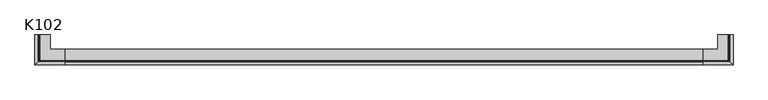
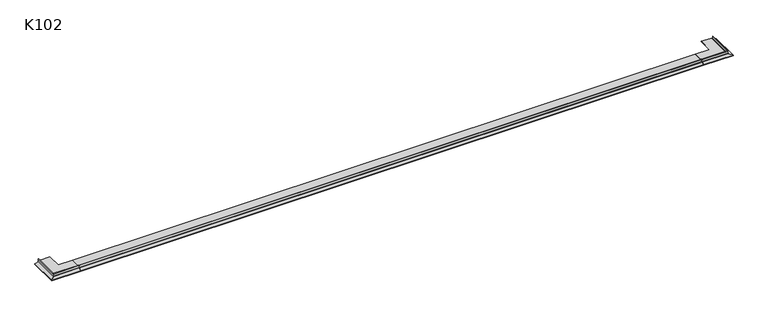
"""IFC4 building model written with IfcOpenShell, lengths in millimetres: proxy geometry, K102 Profil okapowy prosty : K102."""

from ifc_helpers import new_model, si_unit, point, frame, frame_2d, origin, place, context, project, spatial, polyline, circle_curve, ellipse_curve, trimmed, segment, composite_curve, outline, extrude, source, transform, mapped, element, save
from ifc_brep_helpers import plane_surface, cylinder_surface, revolved_surface, advanced_brep


def k102_213efe2d(model_context):
    return source(origin(), model_context, "Body", "SolidModel", [
        advanced_brep(
        [(4830.0, -24.4184871, -8.1422568), (4830.0, -22.7394353, -5.7532078), (4830.0, -22.7394353, 10.321213), (4830.0, -20.5465224, 12.7339418), (4830.0, -20.5465224, 11.3930959), (4830.0, -21.4121459, 10.321213), (4830.0, -21.4121459, -7.2712376), (4830.0, -14.5258906, -7.2712376), (4830.0, -6.3502965, -5.9503608), (4830.0, -6.3502965, -1.3849976), (4830.0, -12.7424491, -1.3849976), (4830.0, -14.2410772, -3.6068052), (4830.0, -15.3829039, -2.8366335), (4830.0, -13.4695704, 0.0), (4830.0, 64.4, 0.0), (4830.0, 64.4, -1.5004141), (4830.0, -4.8498824, -1.5004141), (4830.0, -4.8498824, -7.2270409), (4830.0, -12.351953, -8.4421112), (4830.0, -12.351953, -10.4725578), (4830.0, -13.3907012, -11.3441711), (4830.0, -13.3907012, -8.7716518), (4830.0, -22.2483616, -8.7716518), (4830.0, -46.9768941, -17.6744713), (4830.0, -46.9768941, -19.2442096), (4830.0, -48.0156424, -20.1158228), (4830.0, -48.0156424, -16.6377555), (5024.4184871, 170.0, -8.1422568), (5048.0156424, 170.0, -16.6377555), (5048.0156424, 170.0, -20.1158228), (5046.9768941, 170.0, -19.2442096), (5046.9768941, 170.0, -17.6744713), (5022.2483616, 170.0, -8.7716518), (5013.3907012, 170.0, -8.7716518), (5013.3907012, 170.0, -11.3441711), (5012.351953, 170.0, -10.4725578), (5012.351953, 170.0, -8.4421112), (5004.8498824, 170.0, -7.2270409), (5004.8498824, 170.0, -1.5004141), (4935.6, 170.0, -1.5004141), (4935.6, 170.0, 0.0), (5013.4695704, 170.0, 0.0), (5015.3829039, 170.0, -2.8366335), (5014.2410772, 170.0, -3.6068052), (5012.7424491, 170.0, -1.3849976), (5006.3502965, 170.0, -1.3849976), (5006.3502965, 170.0, -5.9503608), (5014.5258906, 170.0, -7.2712376), (5021.4121459, 170.0, -7.2712376), (5021.4121459, 170.0, 10.321213), (5020.5465224, 170.0, 11.3930959), (5020.5465224, 170.0, 12.7339418), (5022.7394353, 170.0, 10.321213), (5022.7394353, 170.0, -5.7532078), (5048.0156424, -48.0156424, -16.6377555), (5024.4184871, -24.4184871, -8.1422568), (5048.0156424, -48.0156424, -20.1158228), (5046.9768941, -46.9768941, -19.2442096), (5046.9768941, -46.9768941, -17.6744713), (5022.2483616, -22.2483616, -8.7716518), (5013.3907012, -13.3907012, -8.7716518), (5013.3907012, -13.3907012, -11.3441711), (5012.351953, -12.351953, -10.4725578), (5012.351953, -12.351953, -8.4421112), (5004.8498824, -4.8498824, -7.2270409), (5004.8498824, -4.8498824, -1.5004141), (4935.6, 64.4, -1.5004141), (4935.6, 64.4, 0.0), (5013.4695704, -13.4695704, 0.0), (5015.3829039, -15.3829039, -2.8366335), (5014.2410772, -14.2410772, -3.6068052), (5012.7424491, -12.7424491, -1.3849976), (5006.3502965, -6.3502965, -1.3849976), (5006.3502965, -6.3502965, -5.9503608), (5014.5258906, -14.5258906, -7.2712376), (5021.4121459, -21.4121459, -7.2712376), (5021.4121459, -21.4121459, 10.321213), (5020.5465224, -20.5465224, 11.3930959), (5020.5465224, -20.5465224, 12.7339418), (5022.7394353, -22.7394353, 10.321213), (5022.7394353, -22.7394353, -5.7532078)],
        [
            (0, 1, circle_curve(frame((4830.0, -25.2785977, -5.7532078), z_axis=(1.0, 0.0, 0.0), x_axis=(0.0, -1.0, 0.0)), 2.5391624)),
            (1, 2),
            (2, 3, circle_curve(frame((4830.0, -20.3156894, 10.321213), z_axis=(-1.0, 0.0, 0.0), x_axis=(0.0, -1.0, 0.0)), 2.4237459)),
            (3, 4),
            (4, 5, circle_curve(frame((4830.0, -20.3156894, 10.321213), z_axis=(1.0, 0.0, 0.0), x_axis=(0.0, -1.0, 0.0)), 1.0964565)),
            (5, 6),
            (6, 7),
            (7, 8),
            (8, 9),
            (9, 10),
            (10, 11),
            (11, 12),
            (12, 13),
            (13, 14),
            (14, 15),
            (15, 16),
            (16, 17),
            (17, 18),
            (18, 19),
            (19, 20),
            (20, 21),
            (21, 22),
            (22, 23),
            (23, 24),
            (24, 25),
            (25, 26),
            (26, 0),
            (27, 28),
            (28, 29),
            (29, 30),
            (30, 31),
            (31, 32),
            (32, 33),
            (33, 34),
            (34, 35),
            (35, 36),
            (36, 37),
            (37, 38),
            (38, 39),
            (39, 40),
            (40, 41),
            (41, 42),
            (42, 43),
            (43, 44),
            (44, 45),
            (45, 46),
            (46, 47),
            (47, 48),
            (48, 49),
            (49, 50, circle_curve(frame((5020.3156894, 170.0, 10.321213), z_axis=(0.0, -1.0, 0.0), x_axis=(1.0, 0.0, 0.0)), 1.0964565)),
            (50, 51),
            (51, 52, circle_curve(frame((5020.3156894, 170.0, 10.321213), z_axis=(0.0, 1.0, 0.0), x_axis=(1.0, 0.0, 0.0)), 2.4237459)),
            (52, 53),
            (53, 27, circle_curve(frame((5025.2785977, 170.0, -5.7532078), z_axis=(0.0, -1.0, 0.0), x_axis=(1.0, 0.0, 0.0)), 2.5391624)),
            (26, 54),
            (54, 55),
            (55, 0),
            (25, 56),
            (56, 54),
            (24, 57),
            (57, 56),
            (23, 58),
            (58, 57),
            (22, 59),
            (59, 58),
            (21, 60),
            (60, 33),
            (32, 59),
            (20, 61),
            (61, 60),
            (19, 62),
            (62, 61),
            (18, 63),
            (63, 62),
            (17, 64),
            (64, 63),
            (16, 65),
            (65, 64),
            (15, 66),
            (66, 39),
            (38, 65),
            (14, 67),
            (67, 66),
            (13, 68),
            (68, 41),
            (40, 67),
            (12, 69),
            (69, 68),
            (11, 70),
            (70, 69),
            (10, 71),
            (71, 70),
            (9, 72),
            (72, 45),
            (44, 71),
            (8, 73),
            (73, 72),
            (7, 74),
            (74, 73),
            (6, 75),
            (75, 48),
            (47, 74),
            (5, 76),
            (76, 75),
            (4, 77),
            (77, 76, ellipse_curve(frame((5020.3156894, -20.3156894, 10.321213), z_axis=(0.7071067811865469, 0.707106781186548, 0.0), x_axis=(0.7071067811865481, -0.7071067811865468, 0.0)), 1.5506236, 1.0964565)),
            (3, 78),
            (78, 77),
            (2, 79),
            (79, 78, ellipse_curve(frame((5020.3156894, -20.3156894, 10.321213), z_axis=(-0.7071067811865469, -0.707106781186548, 0.0), x_axis=(-0.7071067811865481, 0.7071067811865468, 0.0)), 3.4276943, 2.4237459)),
            (1, 80),
            (80, 79),
            (55, 80, ellipse_curve(frame((5025.2785977, -25.2785977, -5.7532078), z_axis=(0.7071067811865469, 0.707106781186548, 0.0), x_axis=(0.7071067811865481, -0.7071067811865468, 0.0)), 3.5909178, 2.5391624)),
            (54, 28),
            (27, 55),
            (56, 29),
            (57, 30),
            (58, 31),
            (61, 34),
            (62, 35),
            (63, 36),
            (64, 37),
            (69, 42),
            (70, 43),
            (73, 46),
            (76, 49),
            (77, 50),
            (78, 51),
            (79, 52),
            (80, 53),
        ],
        [
            plane_surface(frame((4830.0, 0.0, 0.0), z_axis=(-1.0, 0.0, 0.0), x_axis=(0.0, 0.0, 1.0))),
            plane_surface(frame((5000.0, 170.0, 0.0), z_axis=(0.0, 1.0, 0.0), x_axis=(0.0, 0.0, 1.0))),
            plane_surface(frame((4830.0, -24.4184871, -8.1422568), z_axis=(0.0, -0.33873792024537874, 0.940880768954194), x_axis=(1.0, 0.0, 0.0))),
            plane_surface(frame((4830.0, -48.0156424, -16.6377555), z_axis=(0.0, -1.0, 0.0), x_axis=(1.0, 0.0, 0.0))),
            plane_surface(frame((4830.0, -48.0156424, -20.1158228), z_axis=(0.0, 0.6427876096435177, -0.7660444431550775), x_axis=(1.0, 0.0, 0.0))),
            plane_surface(frame((4830.0, -46.9768941, -19.2442096), z_axis=(0.0, 1.0, 0.0), x_axis=(1.0, 0.0, 0.0))),
            plane_surface(frame((4830.0, -46.9768941, -17.6744713), z_axis=(0.0, 0.3387379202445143, -0.9408807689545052), x_axis=(1.0, 0.0, 0.0))),
            plane_surface(frame((4830.0, -22.2483616, -8.7716518), z_axis=(0.0, 0.0, -1.0), x_axis=(1.0, 0.0, 0.0))),
            plane_surface(frame((4830.0, -13.3907012, -8.7716518), z_axis=(0.0, -1.0, 0.0), x_axis=(1.0, 0.0, 0.0))),
            plane_surface(frame((4830.0, -13.3907012, -11.3441711), z_axis=(0.0, 0.6427876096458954, -0.7660444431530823), x_axis=(1.0, 0.0, 0.0))),
            plane_surface(frame((4830.0, -12.351953, -10.4725578), z_axis=(0.0, 1.0, 0.0), x_axis=(1.0, 0.0, 0.0))),
            plane_surface(frame((4830.0, -12.351953, -8.4421112), z_axis=(0.0, 0.15988118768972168, -0.9871362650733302), x_axis=(1.0, 0.0, 0.0))),
            plane_surface(frame((4830.0, -4.8498824, -7.2270409), z_axis=(0.0, 1.0, 0.0), x_axis=(1.0, 0.0, 0.0))),
            plane_surface(frame((4830.0, -4.8498824, -1.5004141), z_axis=(0.0, 0.0, -1.0), x_axis=(1.0, 0.0, 0.0))),
            plane_surface(frame((4830.0, 64.4, -1.5004141), z_axis=(0.0, 1.0, 0.0), x_axis=(1.0, 0.0, 0.0))),
            plane_surface(frame((4830.0, 64.4, 0.0), z_axis=(0.0, 0.0, 1.0), x_axis=(1.0, 0.0, 0.0))),
            plane_surface(frame((4830.0, -13.4695704, 0.0), z_axis=(0.0, -0.8290375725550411, 0.5591929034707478), x_axis=(1.0, 0.0, 0.0))),
            plane_surface(frame((4830.0, -15.3829039, -2.8366335), z_axis=(0.0, -0.5591929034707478, -0.8290375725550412), x_axis=(1.0, 0.0, 0.0))),
            plane_surface(frame((4830.0, -14.2410772, -3.6068052), z_axis=(0.0, 0.8290375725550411, -0.5591929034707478), x_axis=(1.0, 0.0, 0.0))),
            plane_surface(frame((4830.0, -12.7424491, -1.3849976), z_axis=(0.0, 0.0, -1.0), x_axis=(1.0, 0.0, 0.0))),
            plane_surface(frame((4830.0, -6.3502965, -1.3849976), z_axis=(0.0, -1.0, 0.0), x_axis=(1.0, 0.0, 0.0))),
            plane_surface(frame((4830.0, -6.3502965, -5.9503608), z_axis=(0.0, -0.1594951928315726, 0.9871987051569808), x_axis=(1.0, 0.0, 0.0))),
            plane_surface(frame((4830.0, -14.5258906, -7.2712376), z_axis=(0.0, 0.0, 1.0), x_axis=(1.0, 0.0, 0.0))),
            plane_surface(frame((4830.0, -21.4121459, -7.2712376), z_axis=(0.0, 1.0, 0.0), x_axis=(1.0, 0.0, 0.0))),
            revolved_surface(polyline([(5021.4121459, -21.4121459, 10.321213), (4830.0, -21.4121459, 10.321213)]), (4830.0, -20.3156894, 10.321213), (1.0, 0.0, 0.0)),
            plane_surface(frame((4830.0, -20.5465224, 11.3930959), z_axis=(0.0, 1.0, 0.0), x_axis=(1.0, 0.0, 0.0))),
            cylinder_surface(frame((4830.0, -20.3156894, 10.321213), z_axis=(-1.0, 0.0, 0.0), x_axis=(0.0, -1.0, 0.0)), 2.4237459),
            plane_surface(frame((4830.0, -22.7394353, 10.321213), z_axis=(0.0, -1.0, 0.0), x_axis=(1.0, 0.0, 0.0))),
            revolved_surface(polyline([(5027.817760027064, -27.817760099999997, -5.7532078), (4830.0, -27.817760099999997, -5.7532078)]), (4830.0, -25.2785977, -5.7532078), (1.0, 0.0, 0.0)),
            plane_surface(frame((5024.4184871, -24.4184871, -8.1422568), z_axis=(0.33873792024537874, 0.0, 0.940880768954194), x_axis=(0.0, 1.0, 0.0))),
            plane_surface(frame((5048.0156424, -48.0156424, -16.6377555), z_axis=(1.0, 0.0, 0.0), x_axis=(0.0, 1.0, 0.0))),
            plane_surface(frame((5048.0156424, -48.0156424, -20.1158228), z_axis=(-0.6427876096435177, 0.0, -0.7660444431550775), x_axis=(0.0, 1.0, 0.0))),
            plane_surface(frame((5046.9768941, -46.9768941, -19.2442096), z_axis=(-1.0, 0.0, 0.0), x_axis=(0.0, 1.0, 0.0))),
            plane_surface(frame((5046.9768941, -46.9768941, -17.6744713), z_axis=(-0.3387379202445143, 0.0, -0.9408807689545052), x_axis=(0.0, 1.0, 0.0))),
            plane_surface(frame((5013.3907012, -13.3907012, -8.7716518), z_axis=(1.0, 0.0, 0.0), x_axis=(0.0, 1.0, 0.0))),
            plane_surface(frame((5013.3907012, -13.3907012, -11.3441711), z_axis=(-0.6427876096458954, 0.0, -0.7660444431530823), x_axis=(0.0, 1.0, 0.0))),
            plane_surface(frame((5012.351953, -12.351953, -10.4725578), z_axis=(-1.0, 0.0, 0.0), x_axis=(0.0, 1.0, 0.0))),
            plane_surface(frame((5012.351953, -12.351953, -8.4421112), z_axis=(-0.15988118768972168, 0.0, -0.9871362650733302), x_axis=(0.0, 1.0, 0.0))),
            plane_surface(frame((5004.8498824, -4.8498824, -7.2270409), z_axis=(-1.0, 0.0, 0.0), x_axis=(0.0, 1.0, 0.0))),
            plane_surface(frame((4935.6, 64.4, -1.5004141), z_axis=(-1.0, 0.0, 0.0), x_axis=(0.0, 1.0, 0.0))),
            plane_surface(frame((5013.4695704, -13.4695704, 0.0), z_axis=(0.8290375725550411, 0.0, 0.5591929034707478), x_axis=(0.0, 1.0, 0.0))),
            plane_surface(frame((5015.3829039, -15.3829039, -2.8366335), z_axis=(0.5591929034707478, 0.0, -0.8290375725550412), x_axis=(0.0, 1.0, 0.0))),
            plane_surface(frame((5014.2410772, -14.2410772, -3.6068052), z_axis=(-0.8290375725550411, 0.0, -0.5591929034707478), x_axis=(0.0, 1.0, 0.0))),
            plane_surface(frame((5006.3502965, -6.3502965, -1.3849976), z_axis=(1.0, 0.0, 0.0), x_axis=(0.0, 1.0, 0.0))),
            plane_surface(frame((5006.3502965, -6.3502965, -5.9503608), z_axis=(0.1594951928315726, 0.0, 0.9871987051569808), x_axis=(0.0, 1.0, 0.0))),
            plane_surface(frame((5021.4121459, -21.4121459, -7.2712376), z_axis=(-1.0, 0.0, 0.0), x_axis=(0.0, 1.0, 0.0))),
            revolved_surface(polyline([(5021.412145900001, 170.0, 10.321213), (5021.412145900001, -21.4121459, 10.321213)]), (5020.3156894, 0.0, 10.321213), (0.0, 1.0, 0.0)),
            plane_surface(frame((5020.5465224, -20.5465224, 11.3930959), z_axis=(-1.0, 0.0, 0.0), x_axis=(0.0, 1.0, 0.0))),
            cylinder_surface(frame((5020.3156894, 0.0, 10.321213), z_axis=(0.0, -1.0, 0.0), x_axis=(1.0, 0.0, 0.0)), 2.4237459),
            plane_surface(frame((5022.7394353, -22.7394353, 10.321213), z_axis=(1.0, 0.0, 0.0), x_axis=(0.0, 1.0, 0.0))),
            revolved_surface(polyline([(5027.817760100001, 170.0, -5.7532078), (5027.817760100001, -27.817760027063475, -5.7532078)]), (5025.2785977, 0.0, -5.7532078), (0.0, 1.0, 0.0)),
        ],
        [
            (0, [[1, 2, 3, 4, 5, 6, 7, 8, 9, 10, 11, 12, 13, 14, 15, 16, 17, 18, 19, 20, 21, 22, 23, 24, 25, 26, 27]]),
            (1, [[28, 29, 30, 31, 32, 33, 34, 35, 36, 37, 38, 39, 40, 41, 42, 43, 44, 45, 46, 47, 48, 49, 50, 51, 52, 53, 54]]),
            (2, [[55, 56, 57, -27]]),
            (3, [[58, 59, -55, -26]]),
            (4, [[60, 61, -58, -25]]),
            (5, [[62, 63, -60, -24]]),
            (6, [[64, 65, -62, -23]]),
            (7, [[66, 67, -33, 68, -64, -22]]),
            (8, [[69, 70, -66, -21]]),
            (9, [[71, 72, -69, -20]]),
            (10, [[73, 74, -71, -19]]),
            (11, [[75, 76, -73, -18]]),
            (12, [[77, 78, -75, -17]]),
            (13, [[79, 80, -39, 81, -77, -16]]),
            (14, [[82, 83, -79, -15]]),
            (15, [[84, 85, -41, 86, -82, -14]]),
            (16, [[87, 88, -84, -13]]),
            (17, [[89, 90, -87, -12]]),
            (18, [[91, 92, -89, -11]]),
            (19, [[93, 94, -45, 95, -91, -10]]),
            (20, [[96, 97, -93, -9]]),
            (21, [[98, 99, -96, -8]]),
            (22, [[100, 101, -48, 102, -98, -7]]),
            (23, [[103, 104, -100, -6]]),
            (24, [[105, 106, -103, -5]]),
            (25, [[107, 108, -105, -4]]),
            (26, [[109, 110, -107, -3]]),
            (27, [[111, 112, -109, -2]]),
            (28, [[-57, 113, -111, -1]]),
            (29, [[114, -28, 115, -56]]),
            (30, [[116, -29, -114, -59]]),
            (31, [[117, -30, -116, -61]]),
            (32, [[118, -31, -117, -63]]),
            (33, [[-68, -32, -118, -65]]),
            (34, [[119, -34, -67, -70]]),
            (35, [[120, -35, -119, -72]]),
            (36, [[121, -36, -120, -74]]),
            (37, [[122, -37, -121, -76]]),
            (38, [[-81, -38, -122, -78]]),
            (39, [[-86, -40, -80, -83]]),
            (40, [[123, -42, -85, -88]]),
            (41, [[124, -43, -123, -90]]),
            (42, [[-95, -44, -124, -92]]),
            (43, [[125, -46, -94, -97]]),
            (44, [[-102, -47, -125, -99]]),
            (45, [[126, -49, -101, -104]]),
            (46, [[127, -50, -126, -106]]),
            (47, [[128, -51, -127, -108]]),
            (48, [[129, -52, -128, -110]]),
            (49, [[130, -53, -129, -112]]),
            (50, [[-115, -54, -130, -113]]),
        ],
    ),
        advanced_brep(
        [(170.0, -24.4184871, -8.1422568), (170.0, -48.0156424, -16.6377555), (170.0, -48.0156424, -20.1158228), (170.0, -46.9768941, -19.2442096), (170.0, -46.9768941, -17.6744713), (170.0, -22.2483616, -8.7716518), (170.0, -13.3907012, -8.7716518), (170.0, -13.3907012, -11.3441711), (170.0, -12.351953, -10.4725578), (170.0, -12.351953, -8.4421112), (170.0, -4.8498824, -7.2270409), (170.0, -4.8498824, -1.5004141), (170.0, 64.4, -1.5004141), (170.0, 64.4, 0.0), (170.0, -13.4695704, 0.0), (170.0, -15.3829039, -2.8366335), (170.0, -14.2410772, -3.6068052), (170.0, -12.7424491, -1.3849976), (170.0, -6.3502965, -1.3849976), (170.0, -6.3502965, -5.9503608), (170.0, -14.5258906, -7.2712376), (170.0, -21.4121459, -7.2712376), (170.0, -21.4121459, 10.321213), (170.0, -20.5465224, 11.3930959), (170.0, -20.5465224, 12.7339418), (170.0, -22.7394353, 10.321213), (170.0, -22.7394353, -5.7532078), (-24.4184871, 170.0, -8.1422568), (-22.7394353, 170.0, -5.7532078), (-22.7394353, 170.0, 10.321213), (-20.5465224, 170.0, 12.7339418), (-20.5465224, 170.0, 11.3930959), (-21.4121459, 170.0, 10.321213), (-21.4121459, 170.0, -7.2712376), (-14.5258906, 170.0, -7.2712376), (-6.3502965, 170.0, -5.9503608), (-6.3502965, 170.0, -1.3849976), (-12.7424491, 170.0, -1.3849976), (-14.2410772, 170.0, -3.6068052), (-15.3829039, 170.0, -2.8366335), (-13.4695704, 170.0, 0.0), (64.4, 170.0, 0.0), (64.4, 170.0, -1.5004141), (-4.8498824, 170.0, -1.5004141), (-4.8498824, 170.0, -7.2270409), (-12.351953, 170.0, -8.4421112), (-12.351953, 170.0, -10.4725578), (-13.3907012, 170.0, -11.3441711), (-13.3907012, 170.0, -8.7716518), (-22.2483616, 170.0, -8.7716518), (-46.9768941, 170.0, -17.6744713), (-46.9768941, 170.0, -19.2442096), (-48.0156424, 170.0, -20.1158228), (-48.0156424, 170.0, -16.6377555), (-24.4184871, -24.4184871, -8.1422568), (-48.0156424, -48.0156424, -16.6377555), (-48.0156424, -48.0156424, -20.1158228), (-46.9768941, -46.9768941, -19.2442096), (-46.9768941, -46.9768941, -17.6744713), (-22.2483616, -22.2483616, -8.7716518), (-13.3907012, -13.3907012, -8.7716518), (-13.3907012, -13.3907012, -11.3441711), (-12.351953, -12.351953, -10.4725578), (-12.351953, -12.351953, -8.4421112), (-4.8498824, -4.8498824, -7.2270409), (-4.8498824, -4.8498824, -1.5004141), (64.4, 64.4, -1.5004141), (64.4, 64.4, 0.0), (-13.4695704, -13.4695704, 0.0), (-15.3829039, -15.3829039, -2.8366335), (-14.2410772, -14.2410772, -3.6068052), (-12.7424491, -12.7424491, -1.3849976), (-6.3502965, -6.3502965, -1.3849976), (-6.3502965, -6.3502965, -5.9503608), (-14.5258906, -14.5258906, -7.2712376), (-21.4121459, -21.4121459, -7.2712376), (-21.4121459, -21.4121459, 10.321213), (-20.5465224, -20.5465224, 11.3930959), (-20.5465224, -20.5465224, 12.7339418), (-22.7394353, -22.7394353, 10.321213), (-22.7394353, -22.7394353, -5.7532078)],
        [
            (0, 1),
            (1, 2),
            (2, 3),
            (3, 4),
            (4, 5),
            (5, 6),
            (6, 7),
            (7, 8),
            (8, 9),
            (9, 10),
            (10, 11),
            (11, 12),
            (12, 13),
            (13, 14),
            (14, 15),
            (15, 16),
            (16, 17),
            (17, 18),
            (18, 19),
            (19, 20),
            (20, 21),
            (21, 22),
            (22, 23, circle_curve(frame((170.0, -20.3156894, 10.321213), z_axis=(-1.0, 0.0, 0.0), x_axis=(0.0, -1.0, 0.0)), 1.0964565)),
            (23, 24),
            (24, 25, circle_curve(frame((170.0, -20.3156894, 10.321213), z_axis=(1.0, 0.0, 0.0), x_axis=(0.0, -1.0, 0.0)), 2.4237459)),
            (25, 26),
            (26, 0, circle_curve(frame((170.0, -25.2785977, -5.7532078), z_axis=(-1.0, 0.0, 0.0), x_axis=(0.0, -1.0, 0.0)), 2.5391624)),
            (27, 28, circle_curve(frame((-25.2785977, 170.0, -5.7532078), z_axis=(0.0, -1.0, 0.0), x_axis=(-1.0, 0.0, 0.0)), 2.5391624)),
            (28, 29),
            (29, 30, circle_curve(frame((-20.3156894, 170.0, 10.321213), z_axis=(0.0, 1.0, 0.0), x_axis=(-1.0, 0.0, 0.0)), 2.4237459)),
            (30, 31),
            (31, 32, circle_curve(frame((-20.3156894, 170.0, 10.321213), z_axis=(0.0, -1.0, 0.0), x_axis=(-1.0, 0.0, 0.0)), 1.0964565)),
            (32, 33),
            (33, 34),
            (34, 35),
            (35, 36),
            (36, 37),
            (37, 38),
            (38, 39),
            (39, 40),
            (40, 41),
            (41, 42),
            (42, 43),
            (43, 44),
            (44, 45),
            (45, 46),
            (46, 47),
            (47, 48),
            (48, 49),
            (49, 50),
            (50, 51),
            (51, 52),
            (52, 53),
            (53, 27),
            (0, 54),
            (54, 55),
            (55, 1),
            (55, 56),
            (56, 2),
            (56, 57),
            (57, 3),
            (57, 58),
            (58, 4),
            (58, 59),
            (59, 5),
            (59, 49),
            (48, 60),
            (60, 6),
            (60, 61),
            (61, 7),
            (61, 62),
            (62, 8),
            (62, 63),
            (63, 9),
            (63, 64),
            (64, 10),
            (64, 65),
            (65, 11),
            (65, 43),
            (42, 66),
            (66, 12),
            (66, 67),
            (67, 13),
            (67, 41),
            (40, 68),
            (68, 14),
            (68, 69),
            (69, 15),
            (69, 70),
            (70, 16),
            (70, 71),
            (71, 17),
            (71, 37),
            (36, 72),
            (72, 18),
            (72, 73),
            (73, 19),
            (73, 74),
            (74, 20),
            (74, 34),
            (33, 75),
            (75, 21),
            (75, 76),
            (76, 22),
            (76, 77, ellipse_curve(frame((-20.3156894, -20.3156894, 10.321213), z_axis=(-0.7071067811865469, 0.707106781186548, 0.0), x_axis=(-0.7071067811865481, -0.7071067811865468, 0.0)), 1.5506236, 1.0964565)),
            (77, 23),
            (77, 78),
            (78, 24),
            (78, 79, ellipse_curve(frame((-20.3156894, -20.3156894, 10.321213), z_axis=(0.7071067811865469, -0.707106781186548, 0.0), x_axis=(0.7071067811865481, 0.7071067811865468, 0.0)), 3.4276943, 2.4237459)),
            (79, 25),
            (79, 80),
            (80, 26),
            (80, 54, ellipse_curve(frame((-25.2785977, -25.2785977, -5.7532078), z_axis=(-0.7071067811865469, 0.707106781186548, 0.0), x_axis=(-0.7071067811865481, -0.7071067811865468, 0.0)), 3.5909178, 2.5391624)),
            (54, 27),
            (53, 55),
            (52, 56),
            (51, 57),
            (50, 58),
            (47, 61),
            (46, 62),
            (45, 63),
            (44, 64),
            (39, 69),
            (38, 70),
            (35, 73),
            (32, 76),
            (31, 77),
            (30, 78),
            (29, 79),
            (28, 80),
        ],
        [
            plane_surface(frame((170.0, 0.0, 0.0), z_axis=(1.0, 0.0, 0.0), x_axis=(0.0, 0.0, 1.0))),
            plane_surface(frame((0.0, 170.0, 0.0), z_axis=(0.0, 1.0, 0.0), x_axis=(0.0, 0.0, 1.0))),
            plane_surface(frame((170.0, -24.4184871, -8.1422568), z_axis=(0.0, -0.33873792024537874, 0.940880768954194), x_axis=(-1.0, 0.0, 0.0))),
            plane_surface(frame((170.0, -48.0156424, -16.6377555), z_axis=(0.0, -1.0, 0.0), x_axis=(-1.0, 0.0, 0.0))),
            plane_surface(frame((170.0, -48.0156424, -20.1158228), z_axis=(0.0, 0.6427876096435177, -0.7660444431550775), x_axis=(-1.0, 0.0, 0.0))),
            plane_surface(frame((170.0, -46.9768941, -19.2442096), z_axis=(0.0, 1.0, 0.0), x_axis=(-1.0, 0.0, 0.0))),
            plane_surface(frame((170.0, -46.9768941, -17.6744713), z_axis=(0.0, 0.3387379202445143, -0.9408807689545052), x_axis=(-1.0, 0.0, 0.0))),
            plane_surface(frame((170.0, -22.2483616, -8.7716518), z_axis=(0.0, 0.0, -1.0), x_axis=(-1.0, 0.0, 0.0))),
            plane_surface(frame((170.0, -13.3907012, -8.7716518), z_axis=(0.0, -1.0, 0.0), x_axis=(-1.0, 0.0, 0.0))),
            plane_surface(frame((170.0, -13.3907012, -11.3441711), z_axis=(0.0, 0.6427876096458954, -0.7660444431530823), x_axis=(-1.0, 0.0, 0.0))),
            plane_surface(frame((170.0, -12.351953, -10.4725578), z_axis=(0.0, 1.0, 0.0), x_axis=(-1.0, 0.0, 0.0))),
            plane_surface(frame((170.0, -12.351953, -8.4421112), z_axis=(0.0, 0.15988118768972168, -0.9871362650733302), x_axis=(-1.0, 0.0, 0.0))),
            plane_surface(frame((170.0, -4.8498824, -7.2270409), z_axis=(0.0, 1.0, 0.0), x_axis=(-1.0, 0.0, 0.0))),
            plane_surface(frame((170.0, -4.8498824, -1.5004141), z_axis=(0.0, 0.0, -1.0), x_axis=(-1.0, 0.0, 0.0))),
            plane_surface(frame((170.0, 64.4, -1.5004141), z_axis=(0.0, 1.0, 0.0), x_axis=(-1.0, 0.0, 0.0))),
            plane_surface(frame((170.0, 64.4, 0.0), z_axis=(0.0, 0.0, 1.0), x_axis=(-1.0, 0.0, 0.0))),
            plane_surface(frame((170.0, -13.4695704, 0.0), z_axis=(0.0, -0.8290375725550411, 0.5591929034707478), x_axis=(-1.0, 0.0, 0.0))),
            plane_surface(frame((170.0, -15.3829039, -2.8366335), z_axis=(0.0, -0.5591929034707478, -0.8290375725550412), x_axis=(-1.0, 0.0, 0.0))),
            plane_surface(frame((170.0, -14.2410772, -3.6068052), z_axis=(0.0, 0.8290375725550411, -0.5591929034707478), x_axis=(-1.0, 0.0, 0.0))),
            plane_surface(frame((170.0, -12.7424491, -1.3849976), z_axis=(0.0, 0.0, -1.0), x_axis=(-1.0, 0.0, 0.0))),
            plane_surface(frame((170.0, -6.3502965, -1.3849976), z_axis=(0.0, -1.0, 0.0), x_axis=(-1.0, 0.0, 0.0))),
            plane_surface(frame((170.0, -6.3502965, -5.9503608), z_axis=(0.0, -0.1594951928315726, 0.9871987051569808), x_axis=(-1.0, 0.0, 0.0))),
            plane_surface(frame((170.0, -14.5258906, -7.2712376), z_axis=(0.0, 0.0, 1.0), x_axis=(-1.0, 0.0, 0.0))),
            plane_surface(frame((170.0, -21.4121459, -7.2712376), z_axis=(0.0, 1.0, 0.0), x_axis=(-1.0, 0.0, 0.0))),
            revolved_surface(polyline([(-21.412145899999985, -21.4121459, 10.321213), (170.0, -21.4121459, 10.321213)]), (170.0, -20.3156894, 10.321213), (-1.0, 0.0, 0.0)),
            plane_surface(frame((170.0, -20.5465224, 11.3930959), z_axis=(0.0, 1.0, 0.0), x_axis=(-1.0, 0.0, 0.0))),
            cylinder_surface(frame((170.0, -20.3156894, 10.321213), z_axis=(1.0, 0.0, 0.0), x_axis=(0.0, -1.0, 0.0)), 2.4237459),
            plane_surface(frame((170.0, -22.7394353, 10.321213), z_axis=(0.0, -1.0, 0.0), x_axis=(-1.0, 0.0, 0.0))),
            revolved_surface(polyline([(-27.817760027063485, -27.817760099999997, -5.7532078), (170.0, -27.817760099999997, -5.7532078)]), (170.0, -25.2785977, -5.7532078), (-1.0, 0.0, 0.0)),
            plane_surface(frame((-24.4184871, -24.4184871, -8.1422568), z_axis=(-0.33873792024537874, 0.0, 0.940880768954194), x_axis=(0.0, 1.0, 0.0))),
            plane_surface(frame((-48.0156424, -48.0156424, -16.6377555), z_axis=(-1.0, 0.0, 0.0), x_axis=(0.0, 1.0, 0.0))),
            plane_surface(frame((-48.0156424, -48.0156424, -20.1158228), z_axis=(0.6427876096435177, 0.0, -0.7660444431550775), x_axis=(0.0, 1.0, 0.0))),
            plane_surface(frame((-46.9768941, -46.9768941, -19.2442096), z_axis=(1.0, 0.0, 0.0), x_axis=(0.0, 1.0, 0.0))),
            plane_surface(frame((-46.9768941, -46.9768941, -17.6744713), z_axis=(0.3387379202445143, 0.0, -0.9408807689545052), x_axis=(0.0, 1.0, 0.0))),
            plane_surface(frame((-13.3907012, -13.3907012, -8.7716518), z_axis=(-1.0, 0.0, 0.0), x_axis=(0.0, 1.0, 0.0))),
            plane_surface(frame((-13.3907012, -13.3907012, -11.3441711), z_axis=(0.6427876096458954, 0.0, -0.7660444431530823), x_axis=(0.0, 1.0, 0.0))),
            plane_surface(frame((-12.351953, -12.351953, -10.4725578), z_axis=(1.0, 0.0, 0.0), x_axis=(0.0, 1.0, 0.0))),
            plane_surface(frame((-12.351953, -12.351953, -8.4421112), z_axis=(0.15988118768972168, 0.0, -0.9871362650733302), x_axis=(0.0, 1.0, 0.0))),
            plane_surface(frame((-4.8498824, -4.8498824, -7.2270409), z_axis=(1.0, 0.0, 0.0), x_axis=(0.0, 1.0, 0.0))),
            plane_surface(frame((64.4, 64.4, -1.5004141), z_axis=(1.0, 0.0, 0.0), x_axis=(0.0, 1.0, 0.0))),
            plane_surface(frame((-13.4695704, -13.4695704, 0.0), z_axis=(-0.8290375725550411, 0.0, 0.5591929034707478), x_axis=(0.0, 1.0, 0.0))),
            plane_surface(frame((-15.3829039, -15.3829039, -2.8366335), z_axis=(-0.5591929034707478, 0.0, -0.8290375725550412), x_axis=(0.0, 1.0, 0.0))),
            plane_surface(frame((-14.2410772, -14.2410772, -3.6068052), z_axis=(0.8290375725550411, 0.0, -0.5591929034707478), x_axis=(0.0, 1.0, 0.0))),
            plane_surface(frame((-6.3502965, -6.3502965, -1.3849976), z_axis=(-1.0, 0.0, 0.0), x_axis=(0.0, 1.0, 0.0))),
            plane_surface(frame((-6.3502965, -6.3502965, -5.9503608), z_axis=(-0.1594951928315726, 0.0, 0.9871987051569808), x_axis=(0.0, 1.0, 0.0))),
            plane_surface(frame((-21.4121459, -21.4121459, -7.2712376), z_axis=(1.0, 0.0, 0.0), x_axis=(0.0, 1.0, 0.0))),
            revolved_surface(polyline([(-21.4121459, 170.0, 10.321213), (-21.4121459, -21.4121459, 10.321213)]), (-20.3156894, 0.0, 10.321213), (0.0, 1.0, 0.0)),
            plane_surface(frame((-20.5465224, -20.5465224, 11.3930959), z_axis=(1.0, 0.0, 0.0), x_axis=(0.0, 1.0, 0.0))),
            cylinder_surface(frame((-20.3156894, 0.0, 10.321213), z_axis=(0.0, -1.0, 0.0), x_axis=(-1.0, 0.0, 0.0)), 2.4237459),
            plane_surface(frame((-22.7394353, -22.7394353, 10.321213), z_axis=(-1.0, 0.0, 0.0), x_axis=(0.0, 1.0, 0.0))),
            revolved_surface(polyline([(-27.817760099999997, 170.0, -5.7532078), (-27.817760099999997, -27.817760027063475, -5.7532078)]), (-25.2785977, 0.0, -5.7532078), (0.0, 1.0, 0.0)),
        ],
        [
            (0, [[1, 2, 3, 4, 5, 6, 7, 8, 9, 10, 11, 12, 13, 14, 15, 16, 17, 18, 19, 20, 21, 22, 23, 24, 25, 26, 27]]),
            (1, [[28, 29, 30, 31, 32, 33, 34, 35, 36, 37, 38, 39, 40, 41, 42, 43, 44, 45, 46, 47, 48, 49, 50, 51, 52, 53, 54]]),
            (2, [[-1, 55, 56, 57]]),
            (3, [[-2, -57, 58, 59]]),
            (4, [[-3, -59, 60, 61]]),
            (5, [[-4, -61, 62, 63]]),
            (6, [[-5, -63, 64, 65]]),
            (7, [[-6, -65, 66, -49, 67, 68]]),
            (8, [[-7, -68, 69, 70]]),
            (9, [[-8, -70, 71, 72]]),
            (10, [[-9, -72, 73, 74]]),
            (11, [[-10, -74, 75, 76]]),
            (12, [[-11, -76, 77, 78]]),
            (13, [[-12, -78, 79, -43, 80, 81]]),
            (14, [[-13, -81, 82, 83]]),
            (15, [[-14, -83, 84, -41, 85, 86]]),
            (16, [[-15, -86, 87, 88]]),
            (17, [[-16, -88, 89, 90]]),
            (18, [[-17, -90, 91, 92]]),
            (19, [[-18, -92, 93, -37, 94, 95]]),
            (20, [[-19, -95, 96, 97]]),
            (21, [[-20, -97, 98, 99]]),
            (22, [[-21, -99, 100, -34, 101, 102]]),
            (23, [[-22, -102, 103, 104]]),
            (24, [[-23, -104, 105, 106]]),
            (25, [[-24, -106, 107, 108]]),
            (26, [[-25, -108, 109, 110]]),
            (27, [[-26, -110, 111, 112]]),
            (28, [[-27, -112, 113, -55]]),
            (29, [[-56, 114, -54, 115]]),
            (30, [[-58, -115, -53, 116]]),
            (31, [[-60, -116, -52, 117]]),
            (32, [[-62, -117, -51, 118]]),
            (33, [[-64, -118, -50, -66]]),
            (34, [[-69, -67, -48, 119]]),
            (35, [[-71, -119, -47, 120]]),
            (36, [[-73, -120, -46, 121]]),
            (37, [[-75, -121, -45, 122]]),
            (38, [[-77, -122, -44, -79]]),
            (39, [[-82, -80, -42, -84]]),
            (40, [[-87, -85, -40, 123]]),
            (41, [[-89, -123, -39, 124]]),
            (42, [[-91, -124, -38, -93]]),
            (43, [[-96, -94, -36, 125]]),
            (44, [[-98, -125, -35, -100]]),
            (45, [[-103, -101, -33, 126]]),
            (46, [[-105, -126, -32, 127]]),
            (47, [[-107, -127, -31, 128]]),
            (48, [[-109, -128, -30, 129]]),
            (49, [[-111, -129, -29, 130]]),
            (50, [[-113, -130, -28, -114]]),
        ],
    ),
        extrude(outline(composite_curve([segment(trimmed(circle_curve(frame_2d((-25.2785977, -5.7532078)), 2.5391624), [point((-24.4184871, -8.1422568))], [point((-22.7394353, -5.7532078))], True, "CARTESIAN"), True, "CONTINUOUS"), segment(polyline([(-22.7394353, -5.7532078), (-22.7394353, 10.321213)]), True, "CONTINUOUS"), segment(trimmed(circle_curve(frame_2d((-20.3156894, 10.321213)), 2.4237459), [point((-22.7394353, 10.321213))], [point((-20.5465224, 12.7339418))], False, "CARTESIAN"), True, "CONTINUOUS"), segment(polyline([(-20.5465224, 12.7339418), (-20.5465224, 11.3930959)]), True, "CONTINUOUS"), segment(trimmed(circle_curve(frame_2d((-20.3156894, 10.321213)), 1.0964565), [point((-20.5465224, 11.3930959))], [point((-21.4121459, 10.321213))], True, "CARTESIAN"), True, "CONTINUOUS"), segment(polyline([(-21.4121459, 10.321213), (-21.4121459, -7.2712376), (-14.5258906, -7.2712376), (-6.3502965, -5.9503608), (-6.3502965, -1.3849976), (-12.7424491, -1.3849976), (-14.2410772, -3.6068052), (-15.3829039, -2.8366335), (-13.4695704, 0.0), (64.4, 0.0), (64.4, -1.5004141), (-4.8498824, -1.5004141), (-4.8498824, -7.2270409), (-12.351953, -8.4421112), (-12.351953, -10.4725578), (-13.3907012, -11.3441711), (-13.3907012, -8.7716518), (-22.2483616, -8.7716518), (-46.9768941, -17.6744713), (-46.9768941, -19.2442096), (-48.0156424, -20.1158228), (-48.0156424, -16.6377555), (-24.4184871, -8.1422568)]), True, "CONTINUOUS")], self_intersect=False)), frame((170.0, 0.0, 0.0), z_axis=(1.0, 0.0, 0.0), x_axis=(0.0, 1.0, 0.0)), (0.0, 0.0, 1.0), 4660.0),
    ])


if __name__ == "__main__":
    model = new_model("IFC4")
    model_context = context("Model", 3, world=origin())
    ifc_project = project(units=[si_unit("LENGTHUNIT", "METRE", prefix="MILLI")], contexts=[model_context])
    site = spatial("IfcSite", under=ifc_project)
    building = spatial("IfcBuilding", under=site)
    placement = place(None, origin())
    k102_shape = k102_213efe2d(model_context)
    element("IfcBuildingElementProxy", 1, Name="K102 Profil okapowy prosty : K102", ObjectType="K102 Profil okapowy prosty : K102", at=placement, inside=building, context=model_context, shape_type="MappedRepresentation", body=[
        mapped(k102_shape, transform((0.0, 0.0, 0.0), x_axis=(1.0, 0.0, 0.0), y_axis=(0.0, 1.0, 0.0), z_axis=(0.0, 0.0, 1.0))),
    ])
    save(model, "model.ifc")
